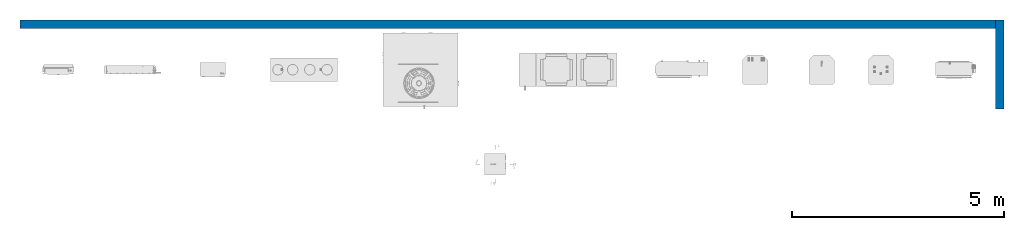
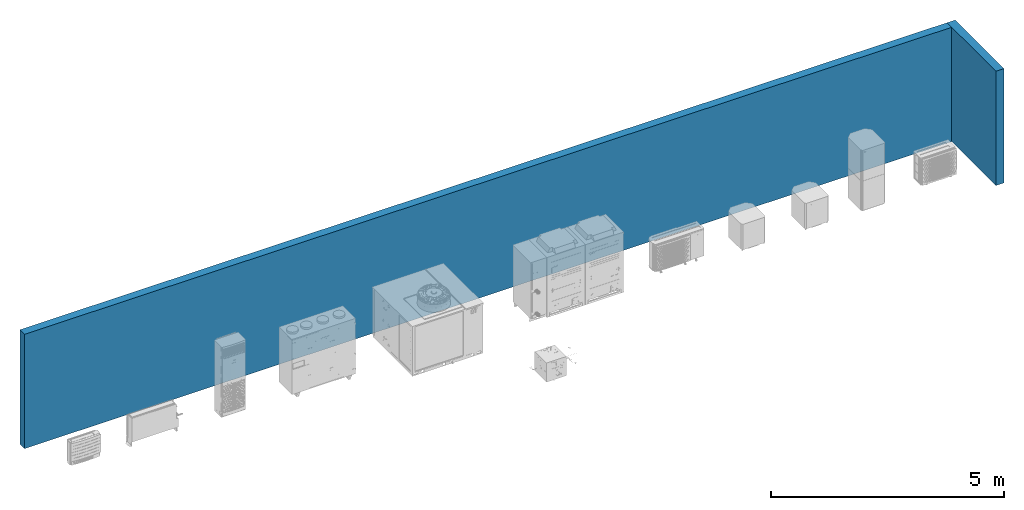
# One storey, part 1 of 3: 2 walls.
"""IFC2X3 building model written with IfcOpenShell, lengths in millimetres."""

from ifc_helpers import new_model, entity, si_unit, converted_unit, derived_unit, direction, frame, frame_2d, origin, place, context, subcontext, project, spatial, rectangle, extrude, material, layer, layer_set, layer_usage, type_object, element, save


model = new_model("IFC2X3")

# Units and contexts
model_context = context("Model", 3, precision=0.01, world=origin(), true_north=direction((6.12303176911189e-17, 1.0)))
body_context = subcontext(model_context, "Body", "Model", "MODEL_VIEW")
ifc_project = project(units=[si_unit("LENGTHUNIT", "METRE", prefix="MILLI"), si_unit("AREAUNIT", "SQUARE_METRE"), si_unit("VOLUMEUNIT", "CUBIC_METRE"), converted_unit("PLANEANGLEUNIT", "DEGREE", entity("IfcRatioMeasure", 0.0174532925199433), si_unit("PLANEANGLEUNIT", "RADIAN"), dimensions=[0, 0, 0, 0, 0, 0, 0]), si_unit("MASSUNIT", "GRAM", prefix="KILO"), derived_unit("MASSDENSITYUNIT", [(si_unit("MASSUNIT", "GRAM", prefix="KILO"), 1), (si_unit("LENGTHUNIT", "METRE"), -3)]), si_unit("TIMEUNIT", "SECOND"), si_unit("FREQUENCYUNIT", "HERTZ"), si_unit("THERMODYNAMICTEMPERATUREUNIT", "DEGREE_CELSIUS"), derived_unit("THERMALTRANSMITTANCEUNIT", [(si_unit("MASSUNIT", "GRAM", prefix="KILO"), 1), (si_unit("THERMODYNAMICTEMPERATUREUNIT", "KELVIN"), -1), (si_unit("TIMEUNIT", "SECOND"), -3)]), derived_unit("VOLUMETRICFLOWRATEUNIT", [(si_unit("LENGTHUNIT", "METRE"), 3), (si_unit("TIMEUNIT", "SECOND"), -1)]), si_unit("ELECTRICCURRENTUNIT", "AMPERE"), si_unit("ELECTRICVOLTAGEUNIT", "VOLT"), si_unit("POWERUNIT", "WATT"), si_unit("FORCEUNIT", "NEWTON", prefix="KILO"), si_unit("ILLUMINANCEUNIT", "LUX"), si_unit("LUMINOUSFLUXUNIT", "LUMEN"), si_unit("LUMINOUSINTENSITYUNIT", "CANDELA"), derived_unit("USERDEFINED", [(si_unit("MASSUNIT", "GRAM", prefix="KILO"), -1), (si_unit("LENGTHUNIT", "METRE"), -2), (si_unit("TIMEUNIT", "SECOND"), 3), (si_unit("LUMINOUSFLUXUNIT", "LUMEN"), 1)]), derived_unit("LINEARVELOCITYUNIT", [(si_unit("LENGTHUNIT", "METRE"), 1), (si_unit("TIMEUNIT", "SECOND"), -1)]), si_unit("PRESSUREUNIT", "PASCAL"), derived_unit("USERDEFINED", [(si_unit("LENGTHUNIT", "METRE"), -2), (si_unit("MASSUNIT", "GRAM", prefix="KILO"), 1), (si_unit("TIMEUNIT", "SECOND"), -2)])], contexts=[model_context])

# Site, building, storey
site_placement = place(None, origin())
site = spatial("IfcSite", under=ifc_project, at=site_placement, Name="Default", CompositionType="ELEMENT")
building_placement = place(site_placement, origin())
building = spatial("IfcBuilding", under=site, at=building_placement, CompositionType="ELEMENT")
storey_placement = place(building_placement, origin())
storey = spatial("IfcBuildingStorey", under=building, at=storey_placement, Name="Level 1", CompositionType="ELEMENT", Elevation=0.0)

# Walls
ifc_material = material(Name="RSen_x_rgb 192 192 192 T00 silver_gen")
ifc_layer = layer(ifc_material, 200.0)
ifc_layer_set = layer_set([ifc_layer], Name="Basic Wall:Wall 1")
ifc_layer_usage_1 = layer_usage(ifc_layer_set, "AXIS2", "NEGATIVE", 100.0)
wall_type = type_object("IfcWallType", Name="Basic Wall:Wall 1", PredefinedType="STANDARD", material=ifc_layer_set)
wall_1_placement = place(storey_placement, frame((25043.5865137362, -26845.1889661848, 0.0), z_axis=(0.0, 0.0, 1.0), x_axis=(0.0, -1.0, 0.0)))
element("IfcWallStandardCase", 1, at=wall_1_placement, inside=storey, type_object=wall_type, material=ifc_layer_usage_1, Name="Basic Wall:Wall 1", ObjectType="Basic Wall:Wall 1:1557", context=body_context, shape_type="SweptSolid", body=[
    extrude(rectangle(XDim=2099.99999999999, YDim=199.999999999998, at=frame_2d((1050.0, -8.24229573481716e-13), x_axis=(-1.0, 0.0))), origin(), (0.0, 0.0, 1.0), 3000.0),
])
ifc_layer_usage_2 = layer_usage(ifc_layer_set, "AXIS2", "POSITIVE", -100.0)
wall_2_placement = place(storey_placement, frame((24943.5865137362, -26945.1889661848, 0.0), z_axis=(0.0, 0.0, 1.0), x_axis=(-1.0, 0.0, 0.0)))
element("IfcWallStandardCase", 2, at=wall_2_placement, inside=storey, type_object=wall_type, material=ifc_layer_usage_2, Name="Basic Wall:Wall 1", ObjectType="Basic Wall:Wall 1:1557", context=body_context, shape_type="SweptSolid", body=[
    extrude(rectangle(XDim=23002.4352625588, YDim=199.999999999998, at=frame_2d((11501.2176312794, -7.105427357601e-14), x_axis=(-1.0, 0.0))), origin(), (0.0, 0.0, 1.0), 3000.0),
])

save(model, "model.ifc")
